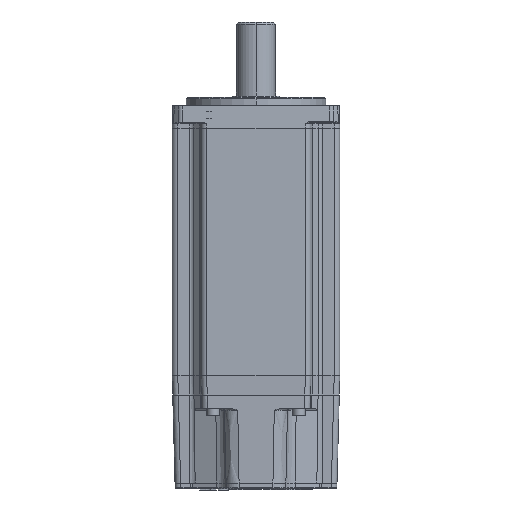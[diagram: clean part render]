
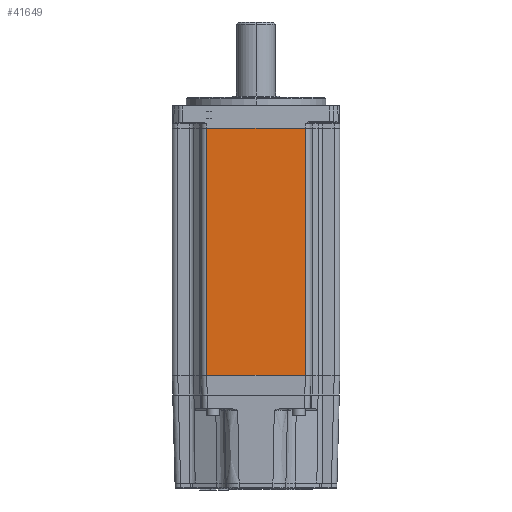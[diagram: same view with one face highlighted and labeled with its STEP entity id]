
A CAD part, front view. The second image highlights one B-rep face of the part: STEP entity #41649.
In plain terms, the highlighted planar face has unit normal (0, -1, 0).
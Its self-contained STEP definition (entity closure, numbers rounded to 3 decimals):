
#2259 = LINE ( 'NONE', #37413, #4973 ) ;
#3920 = CARTESIAN_POINT ( 'NONE',  ( 17.65, -30., 34.347 ) ) ;
#4131 = EDGE_CURVE ( 'NONE', #49281, #44422, #2259, .T. ) ;
#4973 = VECTOR ( 'NONE', #11697, 1000. ) ;
#7130 = ORIENTED_EDGE ( 'NONE', *, *, #4131, .T. ) ;
#7791 = DIRECTION ( 'NONE',  ( 1., 0., 0. ) ) ;
#11108 = CARTESIAN_POINT ( 'NONE',  ( -17.65, -30., -54.153 ) ) ;
#11550 = VECTOR ( 'NONE', #34547, 1000. ) ;
#11569 = VERTEX_POINT ( 'NONE', #26155 ) ;
#11697 = DIRECTION ( 'NONE',  ( 0., 0., 1. ) ) ;
#14803 = VECTOR ( 'NONE', #48206, 1000. ) ;
#15842 = LINE ( 'NONE', #33531, #33334 ) ;
#17567 = VERTEX_POINT ( 'NONE', #11108 ) ;
#17693 = CARTESIAN_POINT ( 'NONE',  ( 17.65, -30., -54.153 ) ) ;
#19372 = DIRECTION ( 'NONE',  ( 0., 0., 1. ) ) ;
#23018 = LINE ( 'NONE', #47031, #11550 ) ;
#23048 = EDGE_CURVE ( 'NONE', #11569, #17567, #37626, .T. ) ;
#24059 = ORIENTED_EDGE ( 'NONE', *, *, #50107, .F. ) ;
#26155 = CARTESIAN_POINT ( 'NONE',  ( -17.65, -30., 34.347 ) ) ;
#26891 = CARTESIAN_POINT ( 'NONE',  ( -17.65, -30., 34.347 ) ) ;
#31287 = EDGE_LOOP ( 'NONE', ( #53378, #7130, #24059, #34167 ) ) ;
#33334 = VECTOR ( 'NONE', #7791, 1000. ) ;
#33531 = CARTESIAN_POINT ( 'NONE',  ( 0., -30., 34.347 ) ) ;
#34167 = ORIENTED_EDGE ( 'NONE', *, *, #23048, .T. ) ;
#34547 = DIRECTION ( 'NONE',  ( 1., 0., 0. ) ) ;
#37017 = DIRECTION ( 'NONE',  ( 0., 1., 0. ) ) ;
#37413 = CARTESIAN_POINT ( 'NONE',  ( 17.65, -30., 34.347 ) ) ;
#37626 = LINE ( 'NONE', #26891, #14803 ) ;
#40751 = CARTESIAN_POINT ( 'NONE',  ( 0., -30., 34.347 ) ) ;
#41649 = ADVANCED_FACE ( 'NONE', ( #52929 ), #45435, .F. ) ;
#44422 = VERTEX_POINT ( 'NONE', #3920 ) ;
#45435 = PLANE ( 'NONE',  #52706 ) ;
#47031 = CARTESIAN_POINT ( 'NONE',  ( 0., -30., -54.153 ) ) ;
#48206 = DIRECTION ( 'NONE',  ( 0., 0., -1. ) ) ;
#49281 = VERTEX_POINT ( 'NONE', #17693 ) ;
#50107 = EDGE_CURVE ( 'NONE', #11569, #44422, #15842, .T. ) ;
#52507 = EDGE_CURVE ( 'NONE', #17567, #49281, #23018, .T. ) ;
#52706 = AXIS2_PLACEMENT_3D ( 'NONE', #40751, #37017, #19372 ) ;
#52929 = FACE_OUTER_BOUND ( 'NONE', #31287, .T. ) ;
#53378 = ORIENTED_EDGE ( 'NONE', *, *, #52507, .T. ) ;
